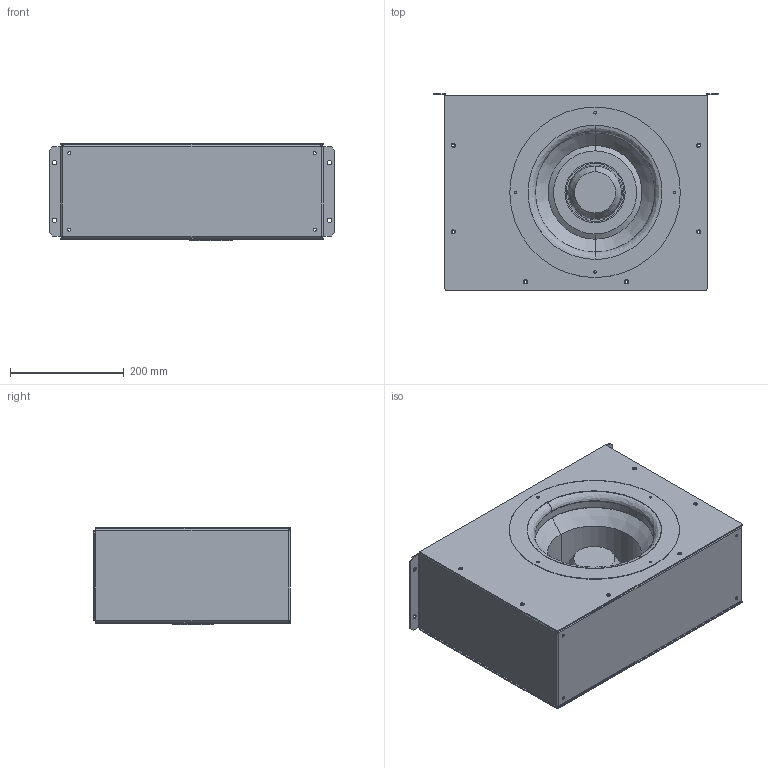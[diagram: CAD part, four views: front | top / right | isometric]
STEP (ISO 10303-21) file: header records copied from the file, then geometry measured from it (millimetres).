
FILE_DESCRIPTION (( 'STEP AP203' ), '1' );
FILE_NAME ('wfhdfp.STEP', '2011-06-14T17:54:11', ( 'Hoffman User' ), ( 'Hoffman Enclosures' ), 'SwSTEP 2.0', 'SolidWorks 2010', '' );
FILE_SCHEMA (( 'CONFIG_CONTROL_DESIGN' ));
Length unit declared in the file: inch
Products named in the file (8): wfhdfp; 89049824; 89049825; 89049826; 10-1091-128; 89049827; 10-1072-127; 99404150_PEM CLS-0420-1 ---S
Assembly tree (18 placements, depth 3):
  wfhdfp
    10-1072-127
    10-1091-128
    89049827
    89049825
      99404150_PEM CLS-0420-1 ---S  x12
      89049826
    89049824
Bounding box: 502.92 x 345.82 x 172.01 mm (x, y, z)
Volume: 7674885 mm3; surface area: 1543275.8 mm2
Topology: 17 solids, 17 shells, 1834 faces, 4705 edges, 2956 vertices
Faces by surface type: plane 1124, cylinder 376, cone 320, bspline 14
Entity records: 15287 total; most frequent: CARTESIAN_POINT 3356, DIRECTION 2339, ORIENTED_EDGE 2150, EDGE_CURVE 1075, AXIS2_PLACEMENT_3D 843, VERTEX_POINT 668, LINE 653, VECTOR 653
